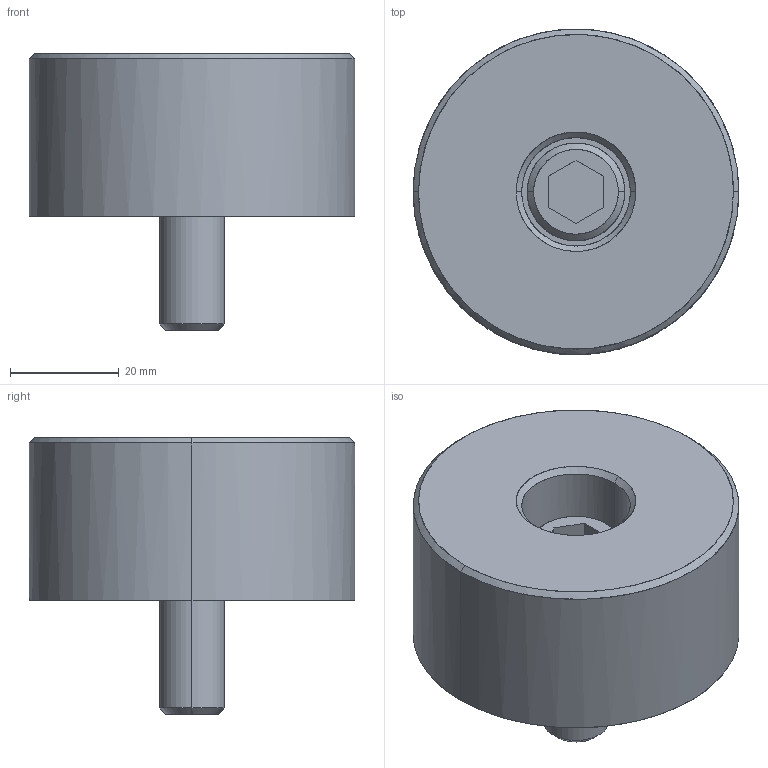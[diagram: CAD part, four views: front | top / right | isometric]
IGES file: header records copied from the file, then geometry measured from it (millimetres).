
Global section: file name: E:\UnigraphicsGraphicData\MISUMI_PRESS-PARTS\IGES\3d_sbv60-30-r-30_00595_r00.igs; native system: NX V5.0; preprocessor: UGS NX IGES V5.0; author: MISUMI; date: 20110105.162509; units: millimetre
Bounding box: 60 x 60 x 51 mm (x, y, z)
Surface area: 15041.7 mm2 (no closed solid volume)
Topology: 0 solids, 0 shells, 31 faces, 204 edges, 204 vertices
Faces by surface type: bspline 31
